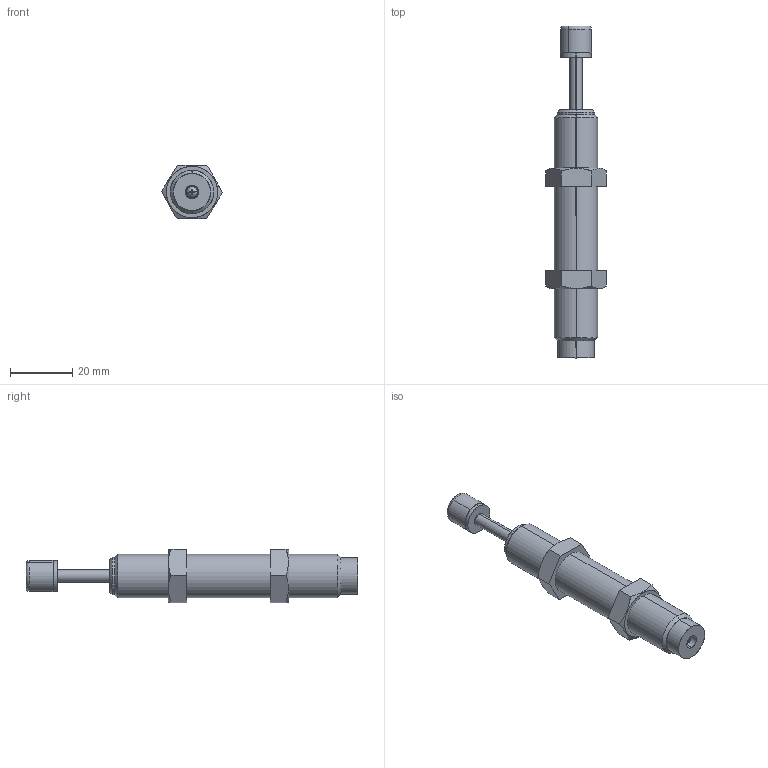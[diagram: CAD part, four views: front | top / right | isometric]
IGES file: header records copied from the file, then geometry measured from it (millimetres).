
Start section: SolidWorks IGES file using analytic representation for surfaces
Bounding box: 19.62 x 107 x 17.24 mm (x, y, z)
Surface area: 6138.8 mm2 (no closed solid volume)
Topology: 0 solids, 0 shells, 65 faces, 1036 edges, 1036 vertices
Faces by surface type: bspline 33, revolution 32
